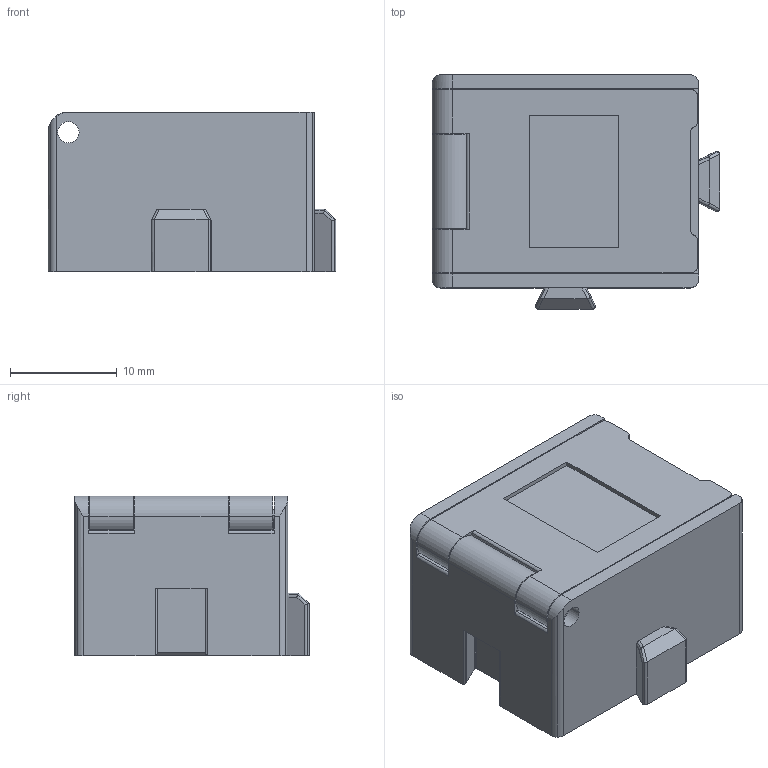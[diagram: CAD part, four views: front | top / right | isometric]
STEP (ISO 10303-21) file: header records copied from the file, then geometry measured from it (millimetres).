
FILE_DESCRIPTION(('STEP AP214'),'1');
FILE_NAME('mod_20x25x15.stp','2022-08-05T18:47:21',(' '),(' '),'Spatial InterOp 3D',' ',' ');
FILE_SCHEMA(('AUTOMOTIVE_DESIGN { 1 0 10303 214 1 1 1 1 }'));
Length unit declared in the file: metre
Products named in the file (1): Box
Bounding box: 27 x 22 x 15 mm (x, y, z)
Volume: 2879.8 mm3; surface area: 4707.1 mm2
Topology: 2 solids, 4 shells, 211 faces, 592 edges, 390 vertices
Faces by surface type: cylinder 116, plane 79, cone 8, torus 8
Entity records: 7154 total; most frequent: CARTESIAN_POINT 1498, DIRECTION 1216, ORIENTED_EDGE 1184, EDGE_CURVE 592, AXIS2_PLACEMENT_3D 445, VERTEX_POINT 390, LINE 326, VECTOR 326
